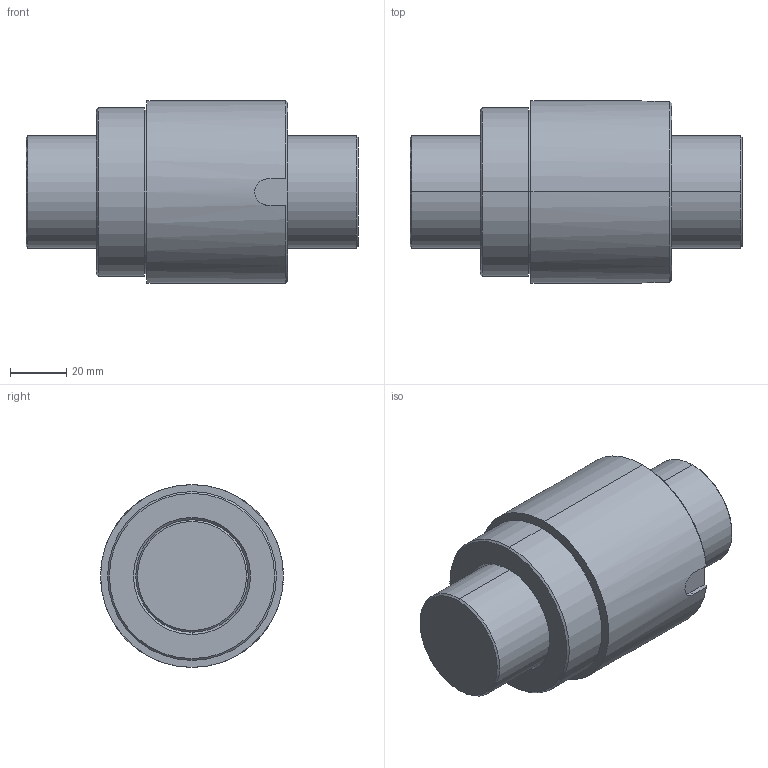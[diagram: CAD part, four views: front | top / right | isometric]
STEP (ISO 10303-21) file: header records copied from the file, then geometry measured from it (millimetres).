
FILE_DESCRIPTION(('no description'),'unknown implementation level');
FILE_NAME('R40_05T5_SE_118_118_0_023_8.stp',' ',('HIWIN GmbH'),('CADClick - KiM GmbH - www.kimweb.de'),'unknown preprocess','ACIS','unknown authorization');
FILE_SCHEMA(('automotive_design'));
Length unit declared in the file: millimetre
Products named in the file (2): R40-05T5-SE 118 118 0.023; R40-05T5-SE 118 118 0.023_1
Bounding box: 118 x 65 x 65 mm (x, y, z)
Volume: 278866.2 mm3; surface area: 43688.7 mm2
Topology: 2 solids, 2 shells, 40 faces, 90 edges, 56 vertices
Faces by surface type: cone 14, cylinder 14, plane 12
Entity records: 2275 total; most frequent: CARTESIAN_POINT 264, DIRECTION 206, STYLED_ITEM 188, PRESENTATION_STYLE_ASSIGNMENT 188, COLOUR_RGB 188, ORIENTED_EDGE 180, EDGE_CURVE 90, CURVE_STYLE 90
